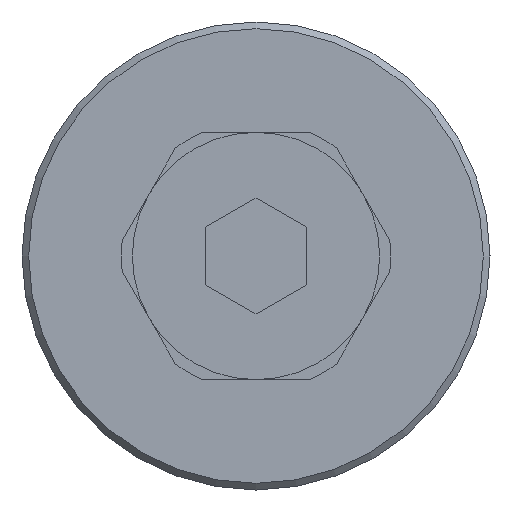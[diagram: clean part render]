
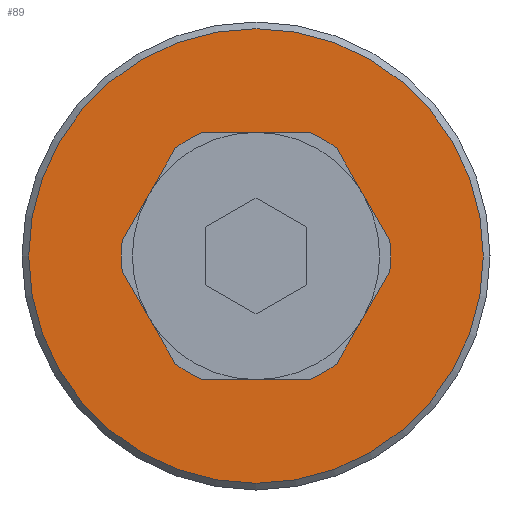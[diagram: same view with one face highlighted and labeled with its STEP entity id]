
A CAD part, left-side view. The second image highlights one B-rep face of the part: STEP entity #89.
In plain terms, the highlighted planar face has unit normal (-1, 0, 0).
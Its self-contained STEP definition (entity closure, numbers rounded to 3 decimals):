
#89 = ADVANCED_FACE( '', ( #205, #206 ), #207, .F. );
#205 = FACE_OUTER_BOUND( '', #352, .T. );
#206 = FACE_BOUND( '', #353, .T. );
#207 = PLANE( '', #354 );
#352 = EDGE_LOOP( '', ( #552 ) );
#353 = EDGE_LOOP( '', ( #553, #554, #555, #556, #557, #558, #559, #560, #561, #562, #563, #564 ) );
#354 = AXIS2_PLACEMENT_3D( '', #565, #566, #567 );
#552 = ORIENTED_EDGE( '', *, *, #833, .F. );
#553 = ORIENTED_EDGE( '', *, *, #834, .T. );
#554 = ORIENTED_EDGE( '', *, *, #809, .T. );
#555 = ORIENTED_EDGE( '', *, *, #786, .T. );
#556 = ORIENTED_EDGE( '', *, *, #835, .T. );
#557 = ORIENTED_EDGE( '', *, *, #836, .T. );
#558 = ORIENTED_EDGE( '', *, *, #837, .T. );
#559 = ORIENTED_EDGE( '', *, *, #838, .T. );
#560 = ORIENTED_EDGE( '', *, *, #815, .T. );
#561 = ORIENTED_EDGE( '', *, *, #839, .F. );
#562 = ORIENTED_EDGE( '', *, *, #840, .T. );
#563 = ORIENTED_EDGE( '', *, *, #841, .T. );
#564 = ORIENTED_EDGE( '', *, *, #842, .T. );
#565 = CARTESIAN_POINT( '', ( 0., 0., 0. ) );
#566 = DIRECTION( '', ( 1., 0., 0. ) );
#567 = DIRECTION( '', ( 0., 0., -1. ) );
#786 = EDGE_CURVE( '', #916, #917, #918, .T. );
#809 = EDGE_CURVE( '', #956, #916, #957, .T. );
#815 = EDGE_CURVE( '', #966, #964, #967, .T. );
#833 = EDGE_CURVE( '', #992, #992, #993, .T. );
#834 = EDGE_CURVE( '', #994, #956, #995, .T. );
#835 = EDGE_CURVE( '', #917, #996, #997, .T. );
#836 = EDGE_CURVE( '', #996, #998, #999, .T. );
#837 = EDGE_CURVE( '', #998, #1000, #1001, .T. );
#838 = EDGE_CURVE( '', #1000, #966, #1002, .T. );
#839 = EDGE_CURVE( '', #1003, #964, #1004, .F. );
#840 = EDGE_CURVE( '', #1003, #1005, #1006, .T. );
#841 = EDGE_CURVE( '', #1005, #1007, #1008, .T. );
#842 = EDGE_CURVE( '', #1007, #994, #1009, .T. );
#916 = VERTEX_POINT( '', #1099 );
#917 = VERTEX_POINT( '', #1100 );
#918 = CIRCLE( '', #1101, 4.03 );
#956 = VERTEX_POINT( '', #1143 );
#957 = LINE( '', #1144, #1145 );
#964 = VERTEX_POINT( '', #1155 );
#966 = VERTEX_POINT( '', #1158 );
#967 = LINE( '', #1159, #1160 );
#992 = VERTEX_POINT( '', #1196 );
#993 = CIRCLE( '', #1197, 6.8 );
#994 = VERTEX_POINT( '', #1198 );
#995 = CIRCLE( '', #1199, 4.03 );
#996 = VERTEX_POINT( '', #1200 );
#997 = LINE( '', #1201, #1202 );
#998 = VERTEX_POINT( '', #1203 );
#999 = CIRCLE( '', #1204, 4.03 );
#1000 = VERTEX_POINT( '', #1205 );
#1001 = LINE( '', #1206, #1207 );
#1002 = CIRCLE( '', #1208, 4.03 );
#1003 = VERTEX_POINT( '', #1209 );
#1004 = CIRCLE( '', #1210, 4.03 );
#1005 = VERTEX_POINT( '', #1211 );
#1006 = LINE( '', #1212, #1213 );
#1007 = VERTEX_POINT( '', #1214 );
#1008 = CIRCLE( '', #1215, 4.03 );
#1009 = LINE( '', #1216, #1217 );
#1099 = CARTESIAN_POINT( '', ( 0., -4.003, 0.467 ) );
#1100 = CARTESIAN_POINT( '', ( 0., -4.003, -0.467 ) );
#1101 = AXIS2_PLACEMENT_3D( '', #1311, #1312, #1313 );
#1143 = CARTESIAN_POINT( '', ( 0., -2.406, 3.233 ) );
#1144 = CARTESIAN_POINT( '', ( 0., -2.406, 3.233 ) );
#1145 = VECTOR( '', #1357, 1000. );
#1155 = CARTESIAN_POINT( '', ( 0., 4.003, -0.467 ) );
#1158 = CARTESIAN_POINT( '', ( 0., 2.406, -3.233 ) );
#1159 = CARTESIAN_POINT( '', ( 0., 2.406, -3.233 ) );
#1160 = VECTOR( '', #1362, 1000. );
#1196 = CARTESIAN_POINT( '', ( 0., 0., -6.8 ) );
#1197 = AXIS2_PLACEMENT_3D( '', #1377, #1378, #1379 );
#1198 = CARTESIAN_POINT( '', ( 0., -1.597, 3.7 ) );
#1199 = AXIS2_PLACEMENT_3D( '', #1380, #1381, #1382 );
#1200 = CARTESIAN_POINT( '', ( 0., -2.406, -3.233 ) );
#1201 = CARTESIAN_POINT( '', ( 0., -4.003, -0.467 ) );
#1202 = VECTOR( '', #1383, 1000. );
#1203 = CARTESIAN_POINT( '', ( 0., -1.597, -3.7 ) );
#1204 = AXIS2_PLACEMENT_3D( '', #1384, #1385, #1386 );
#1205 = CARTESIAN_POINT( '', ( 0., 1.597, -3.7 ) );
#1206 = CARTESIAN_POINT( '', ( 0., -1.597, -3.7 ) );
#1207 = VECTOR( '', #1387, 1000. );
#1208 = AXIS2_PLACEMENT_3D( '', #1388, #1389, #1390 );
#1209 = CARTESIAN_POINT( '', ( 0., 4.003, 0.467 ) );
#1210 = AXIS2_PLACEMENT_3D( '', #1391, #1392, #1393 );
#1211 = CARTESIAN_POINT( '', ( 0., 2.406, 3.233 ) );
#1212 = CARTESIAN_POINT( '', ( 0., 4.003, 0.467 ) );
#1213 = VECTOR( '', #1394, 1000. );
#1214 = CARTESIAN_POINT( '', ( 0., 1.597, 3.7 ) );
#1215 = AXIS2_PLACEMENT_3D( '', #1395, #1396, #1397 );
#1216 = CARTESIAN_POINT( '', ( 0., 1.597, 3.7 ) );
#1217 = VECTOR( '', #1398, 1000. );
#1311 = CARTESIAN_POINT( '', ( 0., 0., 0. ) );
#1312 = DIRECTION( '', ( 1., 0., 0. ) );
#1313 = DIRECTION( '', ( 0., 0., -1. ) );
#1357 = DIRECTION( '', ( 0., -0.5, -0.866 ) );
#1362 = DIRECTION( '', ( 0., 0.5, 0.866 ) );
#1377 = CARTESIAN_POINT( '', ( 0., 0., 0. ) );
#1378 = DIRECTION( '', ( 1., 0., 0. ) );
#1379 = DIRECTION( '', ( 0., 0., -1. ) );
#1380 = CARTESIAN_POINT( '', ( 0., 0., 0. ) );
#1381 = DIRECTION( '', ( 1., 0., 0. ) );
#1382 = DIRECTION( '', ( 0., 0., -1. ) );
#1383 = DIRECTION( '', ( 0., 0.5, -0.866 ) );
#1384 = CARTESIAN_POINT( '', ( 0., 0., 0. ) );
#1385 = DIRECTION( '', ( 1., 0., 0. ) );
#1386 = DIRECTION( '', ( 0., 0., -1. ) );
#1387 = DIRECTION( '', ( 0., 1., 0. ) );
#1388 = CARTESIAN_POINT( '', ( 0., 0., 0. ) );
#1389 = DIRECTION( '', ( 1., 0., 0. ) );
#1390 = DIRECTION( '', ( 0., 0., -1. ) );
#1391 = CARTESIAN_POINT( '', ( 0., 0., 0. ) );
#1392 = DIRECTION( '', ( 1., 0., 0. ) );
#1393 = DIRECTION( '', ( 0., 0., -1. ) );
#1394 = DIRECTION( '', ( 0., -0.5, 0.866 ) );
#1395 = CARTESIAN_POINT( '', ( 0., 0., 0. ) );
#1396 = DIRECTION( '', ( 1., 0., 0. ) );
#1397 = DIRECTION( '', ( 0., 0., -1. ) );
#1398 = DIRECTION( '', ( 0., -1., 0. ) );
